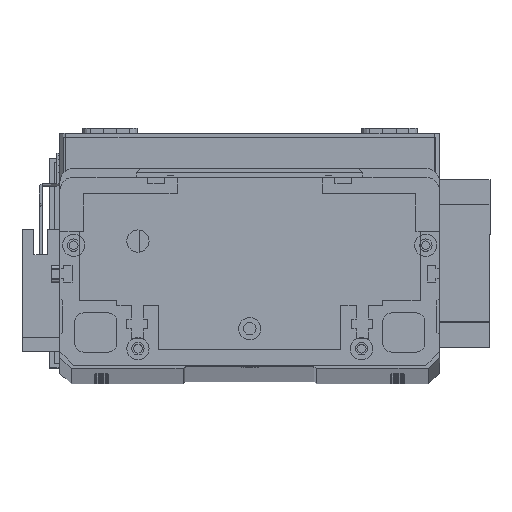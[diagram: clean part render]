
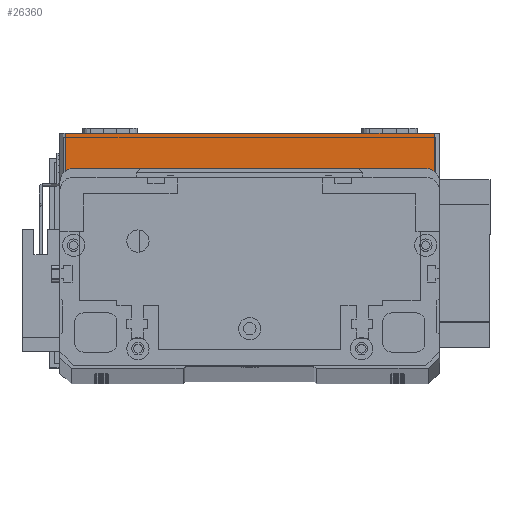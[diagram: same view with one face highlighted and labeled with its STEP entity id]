
A CAD part, top view. The second image highlights one B-rep face of the part: STEP entity #26360.
In plain terms, the highlighted planar face has unit normal (0, 0, 1) as drawn and (0, -1, 0) by its records, which use the part's own axes.
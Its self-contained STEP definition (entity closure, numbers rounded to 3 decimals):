
#513 = EDGE_LOOP ( 'NONE', ( #22943, #15753, #14374, #13807 ) ) ;
#2059 = LINE ( 'NONE', #26452, #29191 ) ;
#7681 = DIRECTION ( 'NONE',  ( 0., 1., 0. ) ) ;
#8313 = LINE ( 'NONE', #11940, #20376 ) ;
#8676 = VECTOR ( 'NONE', #18286, 1000. ) ;
#9033 = VERTEX_POINT ( 'NONE', #17032 ) ;
#9611 = DIRECTION ( 'NONE',  ( 1., 0., 0. ) ) ;
#10672 = EDGE_CURVE ( 'NONE', #23478, #31226, #8313, .T. ) ;
#11197 = AXIS2_PLACEMENT_3D ( 'NONE', #22117, #7681, #24525 ) ;
#11347 = VERTEX_POINT ( 'NONE', #30265 ) ;
#11940 = CARTESIAN_POINT ( 'NONE',  ( 2., 0., 19.5 ) ) ;
#13330 = DIRECTION ( 'NONE',  ( 0., 0., 1. ) ) ;
#13807 = ORIENTED_EDGE ( 'NONE', *, *, #29530, .T. ) ;
#14248 = CARTESIAN_POINT ( 'NONE',  ( 2., 0., 19.5 ) ) ;
#14374 = ORIENTED_EDGE ( 'NONE', *, *, #15376, .T. ) ;
#14467 = LINE ( 'NONE', #29968, #26506 ) ;
#15376 = EDGE_CURVE ( 'NONE', #31226, #11347, #2059, .T. ) ;
#15753 = ORIENTED_EDGE ( 'NONE', *, *, #10672, .T. ) ;
#15865 = CARTESIAN_POINT ( 'NONE',  ( 0., 0., 19.5 ) ) ;
#17032 = CARTESIAN_POINT ( 'NONE',  ( 134., 0., 19.5 ) ) ;
#18286 = DIRECTION ( 'NONE',  ( 1., 0., 0. ) ) ;
#20376 = VECTOR ( 'NONE', #21557, 1000. ) ;
#21557 = DIRECTION ( 'NONE',  ( 0., 0., -1. ) ) ;
#22117 = CARTESIAN_POINT ( 'NONE',  ( 0., 0., 19.5 ) ) ;
#22878 = FACE_OUTER_BOUND ( 'NONE', #513, .T. ) ;
#22943 = ORIENTED_EDGE ( 'NONE', *, *, #24547, .F. ) ;
#23478 = VERTEX_POINT ( 'NONE', #14248 ) ;
#24428 = PLANE ( 'NONE',  #11197 ) ;
#24525 = DIRECTION ( 'NONE',  ( 0., 0., 1. ) ) ;
#24547 = EDGE_CURVE ( 'NONE', #23478, #9033, #27877, .T. ) ;
#25025 = CARTESIAN_POINT ( 'NONE',  ( 2., 0., 0. ) ) ;
#26360 = ADVANCED_FACE ( 'NONE', ( #22878 ), #24428, .F. ) ;
#26452 = CARTESIAN_POINT ( 'NONE',  ( 0., 0., 0. ) ) ;
#26506 = VECTOR ( 'NONE', #13330, 1000. ) ;
#27877 = LINE ( 'NONE', #15865, #8676 ) ;
#29191 = VECTOR ( 'NONE', #9611, 1000. ) ;
#29530 = EDGE_CURVE ( 'NONE', #11347, #9033, #14467, .T. ) ;
#29968 = CARTESIAN_POINT ( 'NONE',  ( 134., 0., 19.5 ) ) ;
#30265 = CARTESIAN_POINT ( 'NONE',  ( 134., 0., 0. ) ) ;
#31226 = VERTEX_POINT ( 'NONE', #25025 ) ;
